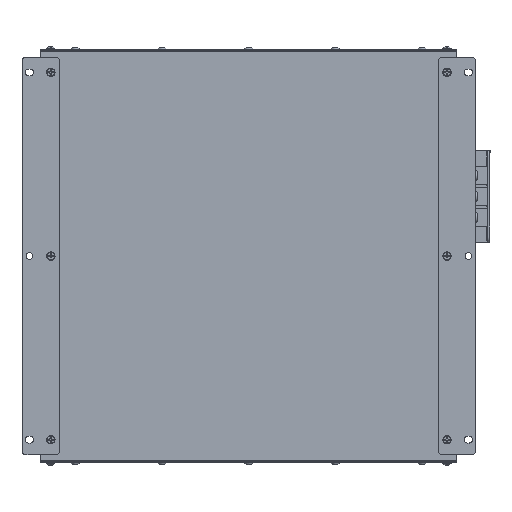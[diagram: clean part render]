
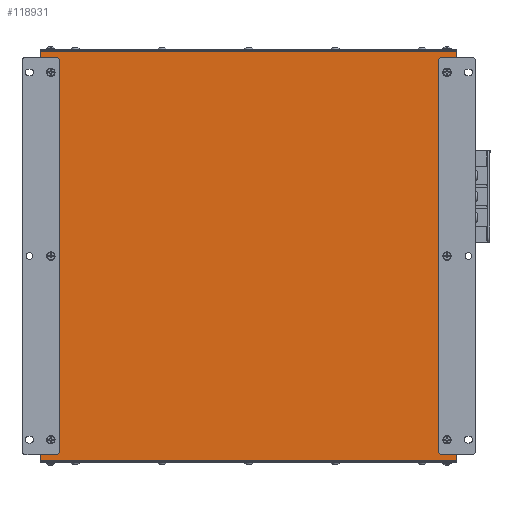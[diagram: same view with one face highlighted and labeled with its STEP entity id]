
A CAD part, front view. The second image highlights one B-rep face of the part: STEP entity #118931.
In plain terms, the highlighted planar face has unit normal (0, -1, 0).
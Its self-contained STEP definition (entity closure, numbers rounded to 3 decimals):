
#7947=PLANE('',#127005);
#9847=LINE('',#160281,#19947);
#9849=LINE('',#160285,#19949);
#10525=LINE('',#165756,#20625);
#10529=LINE('',#165765,#20629);
#10533=LINE('',#165775,#20633);
#10567=LINE('',#165897,#20667);
#10571=LINE('',#165906,#20671);
#10575=LINE('',#165915,#20675);
#10624=LINE('',#166085,#20724);
#10625=LINE('',#166087,#20725);
#16583=LINE('',#215387,#26683);
#16588=LINE('',#215396,#26688);
#19947=VECTOR('',#132443,10.);
#19949=VECTOR('',#132445,10.);
#20625=VECTOR('',#134789,10.);
#20629=VECTOR('',#134799,10.);
#20633=VECTOR('',#134809,10.);
#20667=VECTOR('',#134941,10.);
#20671=VECTOR('',#134951,10.);
#20675=VECTOR('',#134961,10.);
#20724=VECTOR('',#135142,10.);
#20725=VECTOR('',#135143,10.);
#26683=VECTOR('',#150113,10.);
#26688=VECTOR('',#150120,10.);
#35102=FACE_OUTER_BOUND('',#41978,.T.);
#41978=EDGE_LOOP('',(#100171,#100172,#100173,#100174,#100175,#100176,#100177,
#100178,#100179,#100180,#100181,#100182,#100183,#100184,#100185,#100186));
#44602=CIRCLE('',#122373,4.);
#44603=CIRCLE('',#122376,4.);
#44629=CIRCLE('',#122428,4.);
#44630=CIRCLE('',#122431,4.);
#48290=VERTEX_POINT('',#160278);
#48291=VERTEX_POINT('',#160280);
#48292=VERTEX_POINT('',#160282);
#48293=VERTEX_POINT('',#160284);
#49211=VERTEX_POINT('',#165754);
#49212=VERTEX_POINT('',#165755);
#49213=VERTEX_POINT('',#165760);
#49214=VERTEX_POINT('',#165764);
#49215=VERTEX_POINT('',#165768);
#49217=VERTEX_POINT('',#165773);
#49256=VERTEX_POINT('',#165896);
#49257=VERTEX_POINT('',#165901);
#49258=VERTEX_POINT('',#165905);
#49259=VERTEX_POINT('',#165909);
#49315=VERTEX_POINT('',#166083);
#49316=VERTEX_POINT('',#166086);
#59659=EDGE_CURVE('',#48290,#48291,#9847,.T.);
#59661=EDGE_CURVE('',#48292,#48293,#9849,.T.);
#60980=EDGE_CURVE('',#49211,#49212,#10525,.T.);
#60983=EDGE_CURVE('',#49212,#49213,#44602,.T.);
#60985=EDGE_CURVE('',#49213,#49214,#10529,.T.);
#60987=EDGE_CURVE('',#49214,#49215,#44603,.T.);
#60990=EDGE_CURVE('',#49215,#49217,#10533,.T.);
#61049=EDGE_CURVE('',#48292,#49256,#10567,.T.);
#61052=EDGE_CURVE('',#49256,#49257,#44629,.T.);
#61054=EDGE_CURVE('',#49257,#49258,#10571,.T.);
#61056=EDGE_CURVE('',#49258,#49259,#44630,.T.);
#61059=EDGE_CURVE('',#49259,#48291,#10575,.T.);
#61141=EDGE_CURVE('',#49315,#49217,#10624,.T.);
#61142=EDGE_CURVE('',#49211,#49316,#10625,.T.);
#70880=EDGE_CURVE('',#48293,#49315,#16583,.T.);
#70885=EDGE_CURVE('',#49316,#48290,#16588,.T.);
#100171=ORIENTED_EDGE('',*,*,#60990,.T.);
#100172=ORIENTED_EDGE('',*,*,#61141,.F.);
#100173=ORIENTED_EDGE('',*,*,#70880,.F.);
#100174=ORIENTED_EDGE('',*,*,#59661,.F.);
#100175=ORIENTED_EDGE('',*,*,#61049,.T.);
#100176=ORIENTED_EDGE('',*,*,#61052,.T.);
#100177=ORIENTED_EDGE('',*,*,#61054,.T.);
#100178=ORIENTED_EDGE('',*,*,#61056,.T.);
#100179=ORIENTED_EDGE('',*,*,#61059,.T.);
#100180=ORIENTED_EDGE('',*,*,#59659,.F.);
#100181=ORIENTED_EDGE('',*,*,#70885,.F.);
#100182=ORIENTED_EDGE('',*,*,#61142,.F.);
#100183=ORIENTED_EDGE('',*,*,#60980,.T.);
#100184=ORIENTED_EDGE('',*,*,#60983,.T.);
#100185=ORIENTED_EDGE('',*,*,#60985,.T.);
#100186=ORIENTED_EDGE('',*,*,#60987,.T.);
#118931=ADVANCED_FACE('',(#35102),#7947,.F.);
#122373=AXIS2_PLACEMENT_3D('',#165761,#134794,#134795);
#122376=AXIS2_PLACEMENT_3D('',#165769,#134803,#134804);
#122428=AXIS2_PLACEMENT_3D('',#165902,#134946,#134947);
#122431=AXIS2_PLACEMENT_3D('',#165910,#134955,#134956);
#127005=AXIS2_PLACEMENT_3D('',#215395,#150118,#150119);
#132443=DIRECTION('',(0.,0.,-1.));
#132445=DIRECTION('',(0.,0.,-1.));
#134789=DIRECTION('',(1.,0.,0.));
#134794=DIRECTION('center_axis',(0.,1.,
0.));
#134795=DIRECTION('ref_axis',(1.,0.,0.));
#134799=DIRECTION('',(0.,0.,-1.));
#134803=DIRECTION('center_axis',(0.,1.,
0.));
#134804=DIRECTION('ref_axis',(0.,0.,
-1.));
#134809=DIRECTION('',(-1.,0.,0.));
#134941=DIRECTION('',(-1.,0.,0.));
#134946=DIRECTION('center_axis',(0.,1.,
0.));
#134947=DIRECTION('ref_axis',(-1.,0.,0.));
#134951=DIRECTION('',(0.,0.,1.));
#134955=DIRECTION('center_axis',(0.,1.,
0.));
#134956=DIRECTION('ref_axis',(0.,0.,
1.));
#134961=DIRECTION('',(1.,0.,0.));
#135142=DIRECTION('',(0.,0.,1.));
#135143=DIRECTION('',(0.,0.,1.));
#150113=DIRECTION('',(-1.,0.,0.));
#150118=DIRECTION('center_axis',(0.,1.,
0.));
#150119=DIRECTION('ref_axis',(0.,0.,
1.));
#150120=DIRECTION('',(1.,0.,0.));
#160278=CARTESIAN_POINT('',(361.667,507.186,358.723));
#160280=CARTESIAN_POINT('',(361.667,507.186,352.623));
#160281=CARTESIAN_POINT('',(361.667,507.186,358.723));
#160282=CARTESIAN_POINT('',(361.667,507.186,-47.377));
#160284=CARTESIAN_POINT('',(361.667,507.186,-53.477));
#160285=CARTESIAN_POINT('',(361.667,507.186,358.723));
#165754=CARTESIAN_POINT('',(-57.333,507.355,352.623));
#165755=CARTESIAN_POINT('',(-42.333,507.349,352.623));
#165756=CARTESIAN_POINT('',(54.917,507.31,352.623));
#165760=CARTESIAN_POINT('',(-38.333,507.348,348.623));
#165761=CARTESIAN_POINT('Origin',(-42.333,507.349,348.623));
#165764=CARTESIAN_POINT('',(-38.333,507.348,-43.377));
#165765=CARTESIAN_POINT('',(-38.333,507.348,54.623));
#165768=CARTESIAN_POINT('',(-42.333,507.349,-47.377));
#165769=CARTESIAN_POINT('Origin',(-42.333,507.349,-43.377));
#165773=CARTESIAN_POINT('',(-57.333,507.355,-47.377));
#165775=CARTESIAN_POINT('',(39.917,507.316,-47.377));
#165896=CARTESIAN_POINT('',(346.667,507.192,-47.377));
#165897=CARTESIAN_POINT('',(249.417,507.231,-47.377));
#165901=CARTESIAN_POINT('',(342.667,507.193,-43.377));
#165902=CARTESIAN_POINT('Origin',(346.667,507.192,-43.377));
#165905=CARTESIAN_POINT('',(342.667,507.193,348.623));
#165906=CARTESIAN_POINT('',(342.667,507.193,250.623));
#165909=CARTESIAN_POINT('',(346.667,507.192,352.623));
#165910=CARTESIAN_POINT('Origin',(346.667,507.192,348.623));
#165915=CARTESIAN_POINT('',(264.417,507.225,352.623));
#166083=CARTESIAN_POINT('',(-57.333,507.355,-53.477));
#166085=CARTESIAN_POINT('',(-57.333,507.355,-53.477));
#166086=CARTESIAN_POINT('',(-57.333,507.355,358.723));
#166087=CARTESIAN_POINT('',(-57.333,507.355,-53.477));
#215387=CARTESIAN_POINT('',(361.667,507.186,-53.477));
#215395=CARTESIAN_POINT('Origin',(152.167,507.27,152.623));
#215396=CARTESIAN_POINT('',(-57.333,507.355,358.723));
